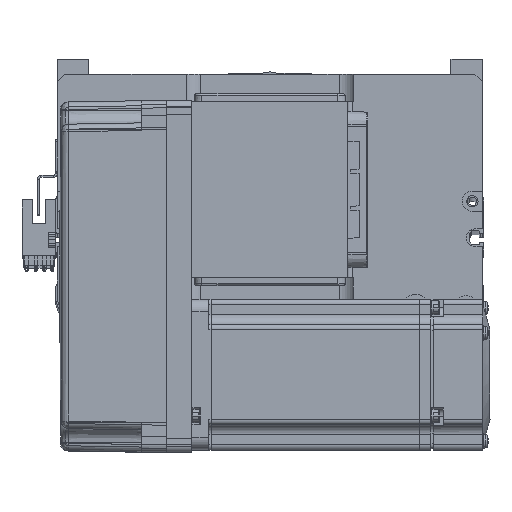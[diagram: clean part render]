
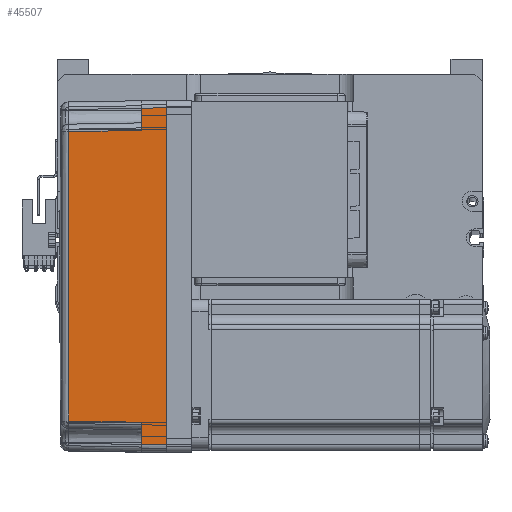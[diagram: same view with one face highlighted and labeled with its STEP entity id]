
A CAD part, top view. The second image highlights one B-rep face of the part: STEP entity #45507.
In plain terms, the highlighted planar face has unit normal (-0.018, 0, 1) as drawn and (0, -1, 0.017) by its records, which use the part's own axes.
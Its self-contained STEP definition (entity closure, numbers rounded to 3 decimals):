
#3049 = CARTESIAN_POINT ( 'NONE',  ( 57.495, -35.32, 38.985 ) ) ;
#3212 = CARTESIAN_POINT ( 'NONE',  ( 58., -35.825, 10. ) ) ;
#5986 = CARTESIAN_POINT ( 'NONE',  ( 57.495, -35.32, 38.985 ) ) ;
#6073 = VECTOR ( 'NONE', #27691, 1000. ) ;
#6286 = ORIENTED_EDGE ( 'NONE', *, *, #47900, .T. ) ;
#7279 = CARTESIAN_POINT ( 'NONE',  ( 70., -35.825, 10. ) ) ;
#8276 = ORIENTED_EDGE ( 'NONE', *, *, #15484, .T. ) ;
#9198 = VECTOR ( 'NONE', #59462, 1000. ) ;
#9433 = VERTEX_POINT ( 'NONE', #3049 ) ;
#10829 = EDGE_CURVE ( 'NONE', #48993, #9433, #45723, .T. ) ;
#12160 = CARTESIAN_POINT ( 'NONE',  ( -58., -35.825, 10. ) ) ;
#12785 = VERTEX_POINT ( 'NONE', #19018 ) ;
#13044 = VECTOR ( 'NONE', #48096, 1000. ) ;
#13160 = VERTEX_POINT ( 'NONE', #12160 ) ;
#13360 = VECTOR ( 'NONE', #23374, 1000. ) ;
#13627 = ORIENTED_EDGE ( 'NONE', *, *, #35410, .T. ) ;
#13783 = EDGE_CURVE ( 'NONE', #12785, #29523, #27806, .T. ) ;
#14969 = CARTESIAN_POINT ( 'NONE',  ( -66.826, -35.825, 10. ) ) ;
#15484 = EDGE_CURVE ( 'NONE', #36671, #23184, #32043, .T. ) ;
#17483 = DIRECTION ( 'NONE',  ( -1., 0., 0. ) ) ;
#17561 = VECTOR ( 'NONE', #47620, 1000. ) ;
#18156 = VERTEX_POINT ( 'NONE', #25806 ) ;
#18845 = ORIENTED_EDGE ( 'NONE', *, *, #13783, .F. ) ;
#19018 = CARTESIAN_POINT ( 'NONE',  ( -67., -36., 0. ) ) ;
#21499 = ORIENTED_EDGE ( 'NONE', *, *, #26640, .T. ) ;
#23184 = VERTEX_POINT ( 'NONE', #62628 ) ;
#23374 = DIRECTION ( 'NONE',  ( 0.017, 0.017, 1. ) ) ;
#24198 = PLANE ( 'NONE',  #58170 ) ;
#25592 = CARTESIAN_POINT ( 'NONE',  ( 19.165, -35.316, 39.181 ) ) ;
#25806 = CARTESIAN_POINT ( 'NONE',  ( -57.495, -35.32, 38.985 ) ) ;
#26640 = EDGE_CURVE ( 'NONE', #18156, #13160, #54062, .T. ) ;
#27242 = VECTOR ( 'NONE', #55263, 1000. ) ;
#27691 = DIRECTION ( 'NONE',  ( -0.017, 0.017, 1. ) ) ;
#27806 = LINE ( 'NONE', #42316, #13360 ) ;
#28346 = ORIENTED_EDGE ( 'NONE', *, *, #59272, .F. ) ;
#29053 = DIRECTION ( 'NONE',  ( 0., -1., 0.017 ) ) ;
#29523 = VERTEX_POINT ( 'NONE', #14969 ) ;
#30153 = FACE_OUTER_BOUND ( 'NONE', #31117, .T. ) ;
#31117 = EDGE_LOOP ( 'NONE', ( #8276, #39168, #51280, #13627, #21499, #6286, #18845, #28346 ) ) ;
#32043 = LINE ( 'NONE', #43218, #13044 ) ;
#33934 = DIRECTION ( 'NONE',  ( 0., -0.017, -1. ) ) ;
#34926 = CARTESIAN_POINT ( 'NONE',  ( -19.165, -35.316, 39.181 ) ) ;
#35085 = LINE ( 'NONE', #35389, #9198 ) ;
#35389 = CARTESIAN_POINT ( 'NONE',  ( 0., -36., 0. ) ) ;
#35410 = EDGE_CURVE ( 'NONE', #9433, #18156, #61844, .T. ) ;
#36671 = VERTEX_POINT ( 'NONE', #49691 ) ;
#39168 = ORIENTED_EDGE ( 'NONE', *, *, #48416, .T. ) ;
#39860 = CARTESIAN_POINT ( 'NONE',  ( -57.495, -35.32, 38.985 ) ) ;
#40191 = LINE ( 'NONE', #46093, #27242 ) ;
#41330 = CARTESIAN_POINT ( 'NONE',  ( 58., -35.825, 10. ) ) ;
#42316 = CARTESIAN_POINT ( 'NONE',  ( -66.959, -35.958, 2.39 ) ) ;
#43218 = CARTESIAN_POINT ( 'NONE',  ( 67., -36., 0. ) ) ;
#45507 = ADVANCED_FACE ( 'NONE', ( #30153 ), #24198, .T. ) ;
#45723 = LINE ( 'NONE', #3212, #6073 ) ;
#46093 = CARTESIAN_POINT ( 'NONE',  ( 70., -35.825, 10. ) ) ;
#47620 = DIRECTION ( 'NONE',  ( -0.017, -0.017, -1. ) ) ;
#47900 = EDGE_CURVE ( 'NONE', #13160, #29523, #40191, .T. ) ;
#48096 = DIRECTION ( 'NONE',  ( -0.017, 0.017, 1. ) ) ;
#48416 = EDGE_CURVE ( 'NONE', #23184, #48993, #62237, .T. ) ;
#48993 = VERTEX_POINT ( 'NONE', #41330 ) ;
#49691 = CARTESIAN_POINT ( 'NONE',  ( 67., -36., 0. ) ) ;
#51280 = ORIENTED_EDGE ( 'NONE', *, *, #10829, .T. ) ;
#54062 = LINE ( 'NONE', #62531, #17561 ) ;
#55263 = DIRECTION ( 'NONE',  ( -1., 0., 0. ) ) ;
#58170 = AXIS2_PLACEMENT_3D ( 'NONE', #58275, #29053, #33934 ) ;
#58275 = CARTESIAN_POINT ( 'NONE',  ( 70., -36., 0. ) ) ;
#59272 = EDGE_CURVE ( 'NONE', #36671, #12785, #35085, .T. ) ;
#59462 = DIRECTION ( 'NONE',  ( -1., 0., 0. ) ) ;
#60736 = VECTOR ( 'NONE', #17483, 1000. ) ;
#61844 = B_SPLINE_CURVE_WITH_KNOTS ( 'NONE', 3,
 ( #5986, #25592, #34926, #39860 ),
 .UNSPECIFIED., .F., .F.,
 ( 4, 4 ),
 ( 0., 1. ),
 .UNSPECIFIED. ) ;
#62237 = LINE ( 'NONE', #7279, #60736 ) ;
#62531 = CARTESIAN_POINT ( 'NONE',  ( -57.495, -35.32, 38.985 ) ) ;
#62628 = CARTESIAN_POINT ( 'NONE',  ( 66.826, -35.825, 10. ) ) ;
